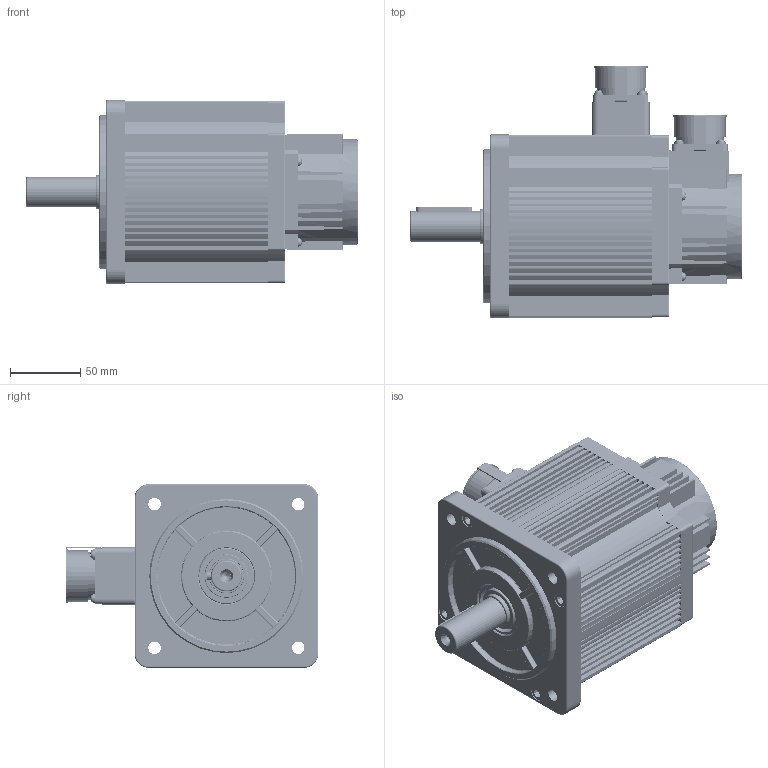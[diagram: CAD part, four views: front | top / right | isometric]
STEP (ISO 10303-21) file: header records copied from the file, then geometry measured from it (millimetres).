
FILE_DESCRIPTION (( 'STEP AP203' ), '1' );
FILE_NAME ('K1-130×°Åä 6Nm.STEP', '2019-12-23T05:18:02', ( 'gs' ), ( 'Microsoft' ), 'SwSTEP 2.0', 'SolidWorks 2019', '' );
FILE_SCHEMA (( 'CONFIG_CONTROL_DESIGN' ));
Length unit declared in the file: millimetre
Products named in the file (26): M6粟菜; K1-130諉盄釱; K1-130儂褲樓馱綴1500W 6Nm; K1-130密封圈; M6X20; M3X8啋儂; K1-130隅赽郪璃1500W 6Nm; K1-130疏菜; K1-130盄簽砎蝶菜; K1-130 O型密封圈变形后; K1-130ヶ傷裔 譙跡; K1-130誘欶躇猾菜; K1-130瑤脣15郋; M4X16啋儂; K1-130綴傷裔 譙跡; curved single coil spring lock washers gb_GB_FASTENER_WASHER_CSLW 4; M3X12啋儂; K1-130瑤脣雄薯盄; K1-130粣(1500W 6Nm); M3X8囀鞠褒; K1-130す瑩; K1-130蚾饜 6Nm; K1-130蛌赽郪璃1500W 6Nm; M3す菜; K1-130瑤脣砎蝶菜; K1-110晤鎢ん誘欶
Assembly tree (82 placements, depth 3):
  K1-130蚾饜 6Nm
    K1-130隅赽郪璃1500W 6Nm
      K1-130儂褲樓馱綴1500W 6Nm
    K1-130ヶ傷裔 譙跡
    K1-130綴傷裔 譙跡
    K1-130蛌赽郪璃1500W 6Nm
      K1-130粣(1500W 6Nm)
    K1-110晤鎢ん誘欶
    K1-130密封圈
    K1-130疏菜
    K1-130誘欶躇猾菜
    curved single coil spring lock washers gb_GB_FASTENER_WASHER_CSLW 4  x17
    M3X8囀鞠褒
    M3す菜  x13
    M6粟菜  x8
    M6X20  x8
    K1-130盄簽砎蝶菜  x2
    K1-130瑤脣15郋
    M3X12啋儂  x8
    K1-130す瑩
    K1-130瑤脣砎蝶菜
    K1-130諉盄釱
    M3X8啋儂  x4
    K1-130 O型密封圈变形后  x2
    M4X16啋儂  x4
    K1-130瑤脣雄薯盄
Bounding box: 237 x 180.1 x 131 mm (x, y, z)
Volume: 856524.3 mm3; surface area: 421363.1 mm2
Topology: 82 solids, 84 shells, 3710 faces, 9989 edges, 6569 vertices
Faces by surface type: cylinder 2260, plane 1153, bspline 159, cone 70, torus 68
Entity records: 119691 total; most frequent: CARTESIAN_POINT 65131, ORIENTED_EDGE 11520, DIRECTION 9565, EDGE_CURVE 5760, VERTEX_POINT 3777, AXIS2_PLACEMENT_3D 3385, LINE 2795, VECTOR 2795
